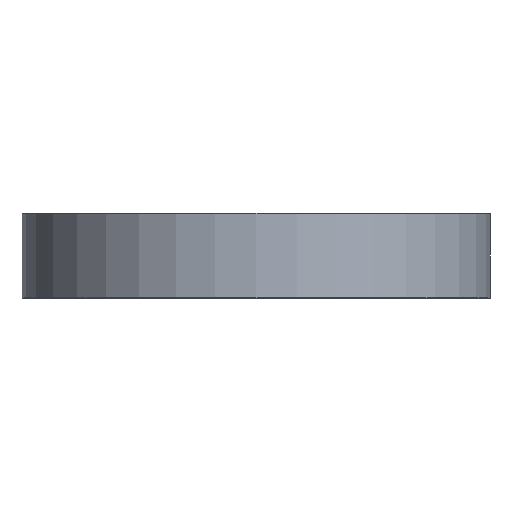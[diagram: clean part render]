
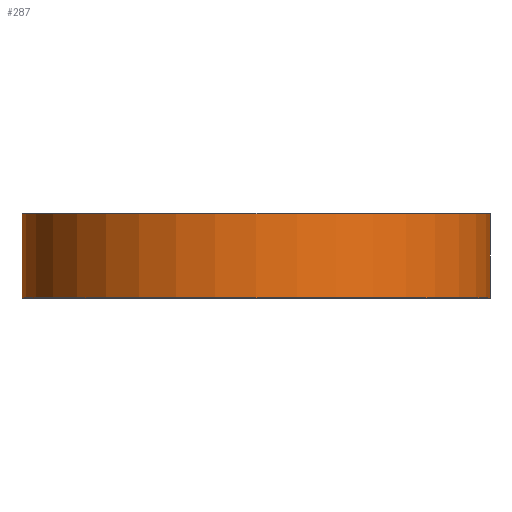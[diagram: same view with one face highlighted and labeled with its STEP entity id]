
A CAD part, top view. The second image highlights one B-rep face of the part: STEP entity #287.
In plain terms, the highlighted cylindrical face has radius 149.25 mm (diameter 298.5 mm), a full revolution.
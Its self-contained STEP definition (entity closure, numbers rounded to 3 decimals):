
#287=ADVANCED_FACE('',(#1009,#1011),#1013,.T.);
#1009=FACE_OUTER_BOUND('',#1010,.T.);
#1010=EDGE_LOOP('',(#1546));
#1011=FACE_OUTER_BOUND('',#1012,.T.);
#1012=EDGE_LOOP('',(#1547));
#1013=CYLINDRICAL_SURFACE('',#1014,149.25);
#1014=AXIS2_PLACEMENT_3D('',#1015,#1016,#1017);
#1015=CARTESIAN_POINT('',(0.,0.,0.));
#1016=DIRECTION('',(0.,1.,0.));
#1017=DIRECTION('',(-1.,0.,0.));
#1546=ORIENTED_EDGE('',*,*,#1693,.F.);
#1547=ORIENTED_EDGE('',*,*,#1689,.T.);
#1689=EDGE_CURVE('',#1805,#1805,#1806,.T.);
#1693=EDGE_CURVE('',#1813,#1813,#1814,.T.);
#1805=VERTEX_POINT('',#2073);
#1806=CIRCLE('',#2074,149.25);
#1813=VERTEX_POINT('',#2093);
#1814=CIRCLE('',#2094,149.25);
#2073=CARTESIAN_POINT('',(-149.25,0.2,0.));
#2074=AXIS2_PLACEMENT_3D('',#2075,#2076,#2077);
#2075=CARTESIAN_POINT('',(0.,0.2,0.));
#2076=DIRECTION('',(0.,1.,0.));
#2077=DIRECTION('',(-1.,0.,0.));
#2093=CARTESIAN_POINT('',(-149.25,53.8,0.));
#2094=AXIS2_PLACEMENT_3D('',#2095,#2096,#2097);
#2095=CARTESIAN_POINT('',(0.,53.8,0.));
#2096=DIRECTION('',(0.,1.,0.));
#2097=DIRECTION('',(-1.,0.,0.));
